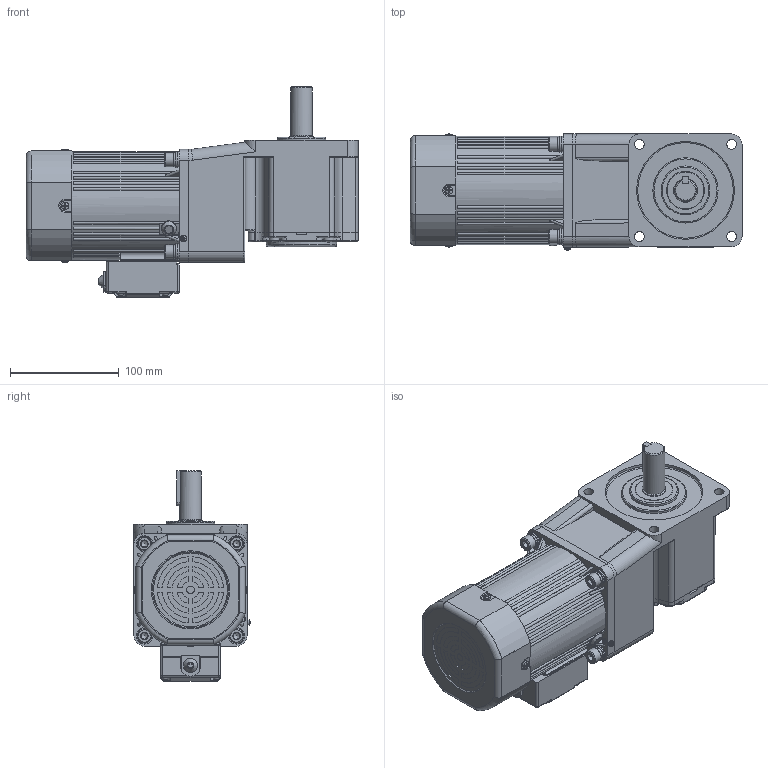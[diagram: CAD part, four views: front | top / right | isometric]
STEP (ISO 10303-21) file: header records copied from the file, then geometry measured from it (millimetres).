
FILE_DESCRIPTION(/* description */ (''),/* implementation_level */ '2;1');
FILE_NAME(/* name */ '100+直角中实-调速风叶-120-140W 新版长款接线盒.stp',/* time_stamp */ '2025-04-07T19:52:18+08:00',/* author */ (''),/* organization */ (''),/* preprocessor_version */ 'ST-DEVELOPER v18.102',/* originating_system */ 'SIEMENS PLM Software NX 2027',/* authorisation */ '');
FILE_SCHEMA (('AP203_CONFIGURATION_CONTROLLED_3D_DESIGN_OF_MECHANICAL_PARTS_AND_ASSEMBLIES_MIM_LF { 1 0 10303 403 2 1 2}'));
Products named in the file (1): 100+直角中实-调速风叶-120
-140W 新版_stp_objects
Bounding box: 305.5 x 106.83 x 193.5 mm (x, y, z)
Volume: 2994275.3 mm3; surface area: 415810.7 mm2
Topology: 26 solids, 26 shells, 2455 faces, 6391 edges, 4101 vertices
Faces by surface type: plane 1087, cylinder 801, bspline 223, torus 164, cone 136, sphere 44
Full cylindrical faces by diameter (mm): 2.2 x2, 2.5 x2, 2.6 x2, 2.7 x1, 2.9 x4, 3 x15, 3.2 x2, 3.5 x6, 3.6 x4, 4 x4, 4.2 x1, 4.55 x2, 4.8 x1, 5.1 x2, 5.15 x2, 5.6 x4, 6 x12, 6.8 x12, 7 x3, 7.5 x1, 7.76 x4, 8 x1, 8.4 x4, 9 x13, 9.3 x1, 9.5 x4, 10 x2, 13 x4, 14 x8, 15 x5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
Entity records: 75779 total; most frequent: CARTESIAN_POINT 18344, ORIENTED_EDGE 11730, DIRECTION 11497, EDGE_CURVE 5865, AXIS2_PLACEMENT_3D 4431, VERTEX_POINT 3935, EDGE_LOOP 3013, LINE 2635
